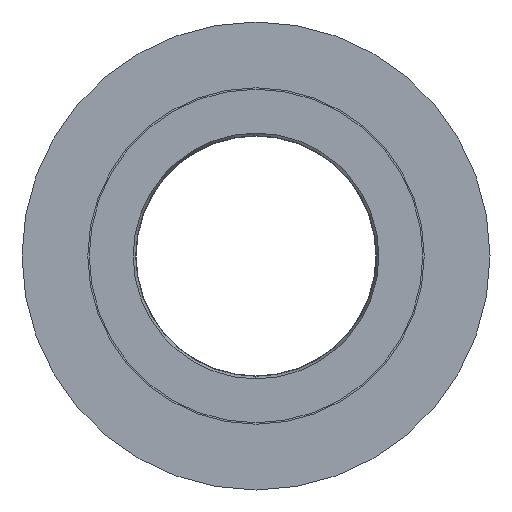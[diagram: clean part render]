
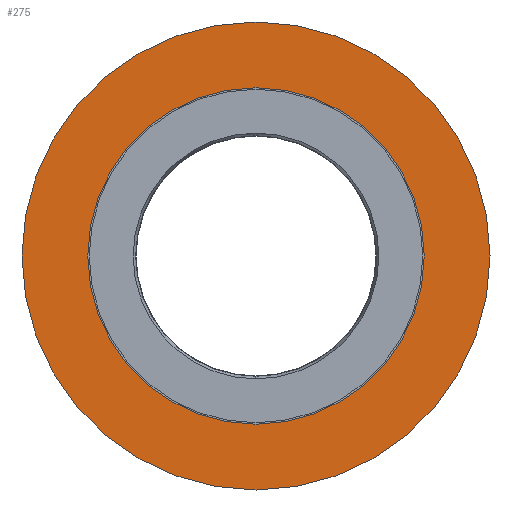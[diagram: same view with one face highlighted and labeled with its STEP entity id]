
A CAD part, front view. The second image highlights one B-rep face of the part: STEP entity #275.
In plain terms, the highlighted planar face has unit normal (0, -1, 0).
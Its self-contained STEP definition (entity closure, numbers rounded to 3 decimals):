
#55 = VERTEX_POINT ( 'NONE', #2556 ) ;
#72 = AXIS2_PLACEMENT_3D ( 'NONE', #2744, #415, #3160 ) ;
#154 = CIRCLE ( 'NONE', #2734, 40. ) ;
#263 = EDGE_CURVE ( 'NONE', #2188, #4212, #1070, .T. ) ;
#275 = ADVANCED_FACE ( 'NONE', ( #839, #826 ), #5157, .F. ) ;
#415 = DIRECTION ( 'NONE',  ( 0., 1., 0. ) ) ;
#826 = FACE_OUTER_BOUND ( 'NONE', #3526, .T. ) ;
#839 = FACE_BOUND ( 'NONE', #3333, .T. ) ;
#1070 = CIRCLE ( 'NONE', #5282, 28.75 ) ;
#1280 = CIRCLE ( 'NONE', #2704, 28.75 ) ;
#1522 = CARTESIAN_POINT ( 'NONE',  ( -23.632, -4.588, 0. ) ) ;
#1897 = DIRECTION ( 'NONE',  ( 0., 0., -1. ) ) ;
#2182 = EDGE_CURVE ( 'NONE', #55, #2315, #154, .T. ) ;
#2188 = VERTEX_POINT ( 'NONE', #5179 ) ;
#2315 = VERTEX_POINT ( 'NONE', #3703 ) ;
#2556 = CARTESIAN_POINT ( 'NONE',  ( -23.632, -4.588, -40. ) ) ;
#2704 = AXIS2_PLACEMENT_3D ( 'NONE', #1522, #4336, #1897 ) ;
#2734 = AXIS2_PLACEMENT_3D ( 'NONE', #4944, #4920, #4900 ) ;
#2744 = CARTESIAN_POINT ( 'NONE',  ( -23.632, -4.588, 0. ) ) ;
#3127 = DIRECTION ( 'NONE',  ( 0., 0., 1. ) ) ;
#3160 = DIRECTION ( 'NONE',  ( 0., 0., -1. ) ) ;
#3333 = EDGE_LOOP ( 'NONE', ( #4300, #3579 ) ) ;
#3352 = EDGE_CURVE ( 'NONE', #4212, #2188, #1280, .T. ) ;
#3450 = ORIENTED_EDGE ( 'NONE', *, *, #2182, .F. ) ;
#3526 = EDGE_LOOP ( 'NONE', ( #3450, #4619 ) ) ;
#3579 = ORIENTED_EDGE ( 'NONE', *, *, #3352, .T. ) ;
#3703 = CARTESIAN_POINT ( 'NONE',  ( -23.632, -4.588, 40. ) ) ;
#4042 = CARTESIAN_POINT ( 'NONE',  ( -23.632, -4.588, 28.75 ) ) ;
#4212 = VERTEX_POINT ( 'NONE', #4042 ) ;
#4300 = ORIENTED_EDGE ( 'NONE', *, *, #263, .T. ) ;
#4336 = DIRECTION ( 'NONE',  ( 0., 1., 0. ) ) ;
#4520 = CIRCLE ( 'NONE', #72, 40. ) ;
#4619 = ORIENTED_EDGE ( 'NONE', *, *, #4827, .F. ) ;
#4827 = EDGE_CURVE ( 'NONE', #2315, #55, #4520, .T. ) ;
#4900 = DIRECTION ( 'NONE',  ( 0., 0., -1. ) ) ;
#4920 = DIRECTION ( 'NONE',  ( 0., 1., 0. ) ) ;
#4944 = CARTESIAN_POINT ( 'NONE',  ( -23.632, -4.588, 0. ) ) ;
#5088 = CARTESIAN_POINT ( 'NONE',  ( -63.632, -4.588, 0. ) ) ;
#5090 = AXIS2_PLACEMENT_3D ( 'NONE', #5088, #5188, #3127 ) ;
#5157 = PLANE ( 'NONE',  #5090 ) ;
#5164 = DIRECTION ( 'NONE',  ( 0., 1., 0. ) ) ;
#5166 = CARTESIAN_POINT ( 'NONE',  ( -23.632, -4.588, 0. ) ) ;
#5174 = DIRECTION ( 'NONE',  ( 0., 0., -1. ) ) ;
#5179 = CARTESIAN_POINT ( 'NONE',  ( -23.632, -4.588, -28.75 ) ) ;
#5188 = DIRECTION ( 'NONE',  ( 0., 1., 0. ) ) ;
#5282 = AXIS2_PLACEMENT_3D ( 'NONE', #5166, #5164, #5174 ) ;
